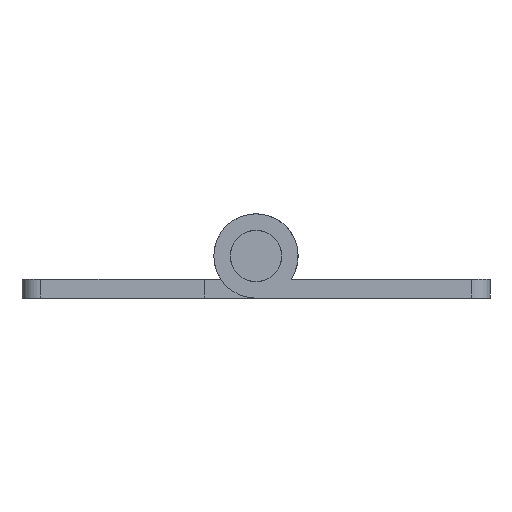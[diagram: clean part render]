
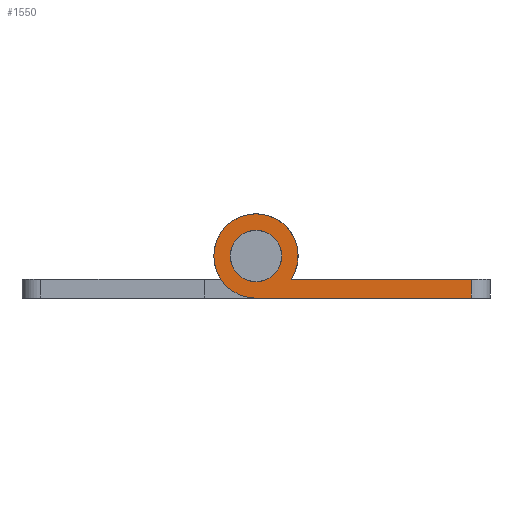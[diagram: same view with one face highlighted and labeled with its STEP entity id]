
A CAD part, front view. The second image highlights one B-rep face of the part: STEP entity #1550.
In plain terms, the highlighted planar face has unit normal (0, -1, 0).
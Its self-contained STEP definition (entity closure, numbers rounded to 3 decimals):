
#30 = CARTESIAN_POINT ( 'NONE',  ( 29.5, 0., 0. ) ) ;
#31 = DIRECTION ( 'NONE',  ( 0., 1., 0. ) ) ;
#44 = VERTEX_POINT ( 'NONE', #2058 ) ;
#72 = ORIENTED_EDGE ( 'NONE', *, *, #1712, .T. ) ;
#83 = CIRCLE ( 'NONE', #2106, 2.75 ) ;
#144 = DIRECTION ( 'NONE',  ( 0., -1., 0. ) ) ;
#170 = VECTOR ( 'NONE', #1164, 1000. ) ;
#174 = EDGE_LOOP ( 'NONE', ( #382, #425, #72, #427, #1415 ) ) ;
#210 = CARTESIAN_POINT ( 'NONE',  ( 8.242, 0., 2. ) ) ;
#311 = CARTESIAN_POINT ( 'NONE',  ( 27.5, 0., 4.5 ) ) ;
#340 = CARTESIAN_POINT ( 'NONE',  ( 4.5, 0., 7.25 ) ) ;
#379 = VERTEX_POINT ( 'NONE', #1346 ) ;
#382 = ORIENTED_EDGE ( 'NONE', *, *, #1757, .T. ) ;
#425 = ORIENTED_EDGE ( 'NONE', *, *, #1014, .T. ) ;
#427 = ORIENTED_EDGE ( 'NONE', *, *, #1794, .T. ) ;
#453 = VERTEX_POINT ( 'NONE', #1205 ) ;
#470 = LINE ( 'NONE', #737, #2341 ) ;
#573 = LINE ( 'NONE', #311, #1505 ) ;
#587 = CARTESIAN_POINT ( 'NONE',  ( 4.5, 0., 4.5 ) ) ;
#638 = EDGE_LOOP ( 'NONE', ( #784, #687 ) ) ;
#660 = LINE ( 'NONE', #30, #170 ) ;
#687 = ORIENTED_EDGE ( 'NONE', *, *, #904, .T. ) ;
#737 = CARTESIAN_POINT ( 'NONE',  ( 8.242, 0., 2. ) ) ;
#771 = VERTEX_POINT ( 'NONE', #340 ) ;
#784 = ORIENTED_EDGE ( 'NONE', *, *, #1687, .T. ) ;
#792 = AXIS2_PLACEMENT_3D ( 'NONE', #2181, #1082, #2382 ) ;
#820 = FACE_OUTER_BOUND ( 'NONE', #174, .T. ) ;
#823 = CARTESIAN_POINT ( 'NONE',  ( 4.5, 0., 4.5 ) ) ;
#875 = DIRECTION ( 'NONE',  ( 0., 0., 1. ) ) ;
#904 = EDGE_CURVE ( 'NONE', #453, #771, #1730, .T. ) ;
#941 = DIRECTION ( 'NONE',  ( 0., 1., 0. ) ) ;
#983 = AXIS2_PLACEMENT_3D ( 'NONE', #587, #31, #1344 ) ;
#1014 = EDGE_CURVE ( 'NONE', #2108, #379, #573, .T. ) ;
#1029 = CIRCLE ( 'NONE', #2200, 4.5 ) ;
#1082 = DIRECTION ( 'NONE',  ( 0., -1., 0. ) ) ;
#1164 = DIRECTION ( 'NONE',  ( 1., 0., 0. ) ) ;
#1205 = CARTESIAN_POINT ( 'NONE',  ( 4.5, 0., 1.75 ) ) ;
#1280 = CARTESIAN_POINT ( 'NONE',  ( 4.5, 0., 4.5 ) ) ;
#1344 = DIRECTION ( 'NONE',  ( 0., 0., 1. ) ) ;
#1346 = CARTESIAN_POINT ( 'NONE',  ( 27.5, 0., 2. ) ) ;
#1415 = ORIENTED_EDGE ( 'NONE', *, *, #1996, .T. ) ;
#1461 = DIRECTION ( 'NONE',  ( 0., 0., 1. ) ) ;
#1497 = DIRECTION ( 'NONE',  ( -1., 0., 0. ) ) ;
#1505 = VECTOR ( 'NONE', #2164, 1000. ) ;
#1550 = ADVANCED_FACE ( 'NONE', ( #2325, #820 ), #1886, .F. ) ;
#1687 = EDGE_CURVE ( 'NONE', #771, #453, #83, .T. ) ;
#1712 = EDGE_CURVE ( 'NONE', #379, #2331, #470, .T. ) ;
#1730 = CIRCLE ( 'NONE', #1766, 2.75 ) ;
#1757 = EDGE_CURVE ( 'NONE', #2246, #2108, #660, .T. ) ;
#1766 = AXIS2_PLACEMENT_3D ( 'NONE', #823, #2156, #875 ) ;
#1794 = EDGE_CURVE ( 'NONE', #2331, #44, #1029, .T. ) ;
#1886 = PLANE ( 'NONE',  #983 ) ;
#1996 = EDGE_CURVE ( 'NONE', #44, #2246, #2016, .T. ) ;
#2016 = CIRCLE ( 'NONE', #792, 4.5 ) ;
#2019 = CARTESIAN_POINT ( 'NONE',  ( 27.5, 0., 0. ) ) ;
#2034 = CARTESIAN_POINT ( 'NONE',  ( 4.5, 0., 4.5 ) ) ;
#2058 = CARTESIAN_POINT ( 'NONE',  ( 4.5, 0., 9. ) ) ;
#2106 = AXIS2_PLACEMENT_3D ( 'NONE', #2034, #941, #2240 ) ;
#2108 = VERTEX_POINT ( 'NONE', #2019 ) ;
#2156 = DIRECTION ( 'NONE',  ( 0., 1., 0. ) ) ;
#2164 = DIRECTION ( 'NONE',  ( 0., 0., 1. ) ) ;
#2181 = CARTESIAN_POINT ( 'NONE',  ( 4.5, 0., 4.5 ) ) ;
#2200 = AXIS2_PLACEMENT_3D ( 'NONE', #1280, #144, #1461 ) ;
#2240 = DIRECTION ( 'NONE',  ( 0., 0., 1. ) ) ;
#2246 = VERTEX_POINT ( 'NONE', #2283 ) ;
#2283 = CARTESIAN_POINT ( 'NONE',  ( 4.5, 0., 0. ) ) ;
#2325 = FACE_BOUND ( 'NONE', #638, .T. ) ;
#2331 = VERTEX_POINT ( 'NONE', #210 ) ;
#2341 = VECTOR ( 'NONE', #1497, 1000. ) ;
#2382 = DIRECTION ( 'NONE',  ( 0., 0., 1. ) ) ;
